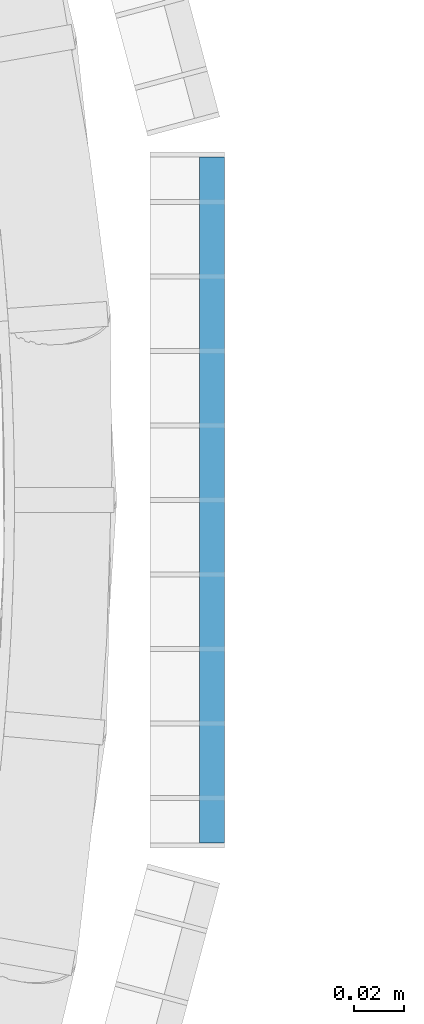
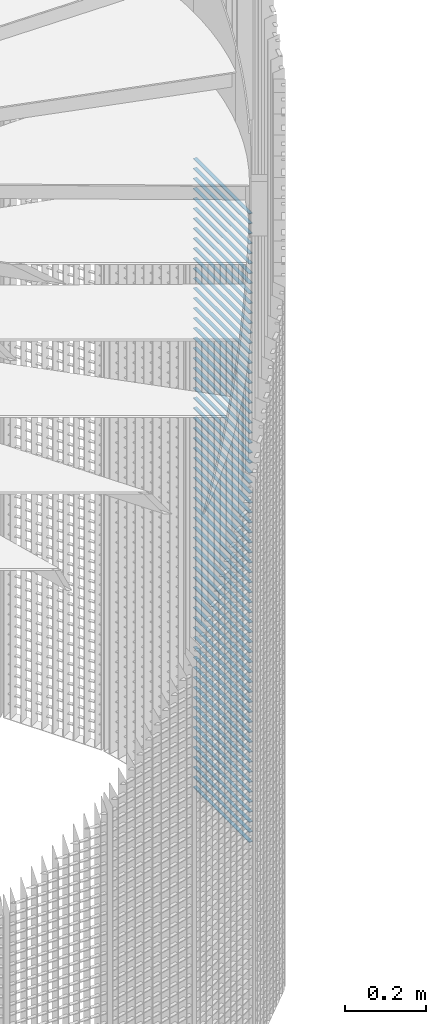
# One storey, part 313 of 1183: 64 beams, 1 element without a shape of its own.
"""IFC2X3 building model written with IfcOpenShell, lengths in millimetres."""

from ifc_helpers import new_model, si_unit, frame, origin_with_axes, origin_2d_with_axis, place, context, subcontext, project, spatial, rectangle, extrude, material, type_object, element, aggregate, save


model = new_model("IFC2X3")

# Units and contexts
model_context = context("Model", 3, precision=1e-05, world=origin_with_axes())
body_context = subcontext(model_context, "Body", "Model", "MODEL_VIEW")
ifc_project = project(units=[si_unit("LENGTHUNIT", "METRE", prefix="MILLI"), si_unit("AREAUNIT", "SQUARE_METRE"), si_unit("VOLUMEUNIT", "CUBIC_METRE"), si_unit("MASSUNIT", "GRAM", prefix="KILO"), si_unit("TIMEUNIT", "SECOND"), si_unit("PLANEANGLEUNIT", "RADIAN"), si_unit("SOLIDANGLEUNIT", "STERADIAN"), si_unit("THERMODYNAMICTEMPERATUREUNIT", "DEGREE_CELSIUS"), si_unit("LUMINOUSINTENSITYUNIT", "LUMEN")], contexts=[model_context])

# Site, building, storey
site_placement = place(None, origin_with_axes())
site = spatial("IfcSite", under=ifc_project, at=site_placement, Name="Undefined", CompositionType="ELEMENT")
building_placement = place(site_placement, origin_with_axes())
building = spatial("IfcBuilding", under=site, at=building_placement, Name="Undefined", CompositionType="ELEMENT")
storey_placement = place(building_placement, origin_with_axes())
storey = spatial("IfcBuildingStorey", under=building, at=storey_placement, Name="Undefined", CompositionType="ELEMENT", Elevation=0.0)

# Assembly, beams
assembly_placement = place(storey_placement, origin_with_axes())
assembly = element("IfcElementAssembly", 1, at=assembly_placement, inside=storey, Name="BORDURE", AssemblyPlace="NOTDEFINED", PredefinedType="NOTDEFINED")
ifc_material = material(Name="STEEL/S235JR")
beam_type = type_object("IfcBeamType", Name="PL2*10", PredefinedType="NOTDEFINED")
beam_1_placement = place(assembly_placement, frame((1113.47999999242, -137.996003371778, 1920.0), z_axis=(1.0, 0.0, 0.0), x_axis=(0.0, 1.0, 0.0)))
beam_1 = element("IfcBeam", 2, at=beam_1_placement, type_object=beam_type, material=ifc_material, Name="ENTRETOISE", context=body_context, shape_type="SweptSolid", body=[
    extrude(rectangle(XDim=2.0, YDim=10.0, at=origin_2d_with_axis()), frame((275.999999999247, 9.09494701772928e-13, 1.53210777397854e-14), z_axis=(-1.0, 0.0, 0.0), x_axis=(0.0, -1.0, 0.0)), (0.0, 0.0, 1.0), 276.0),
])
beam_2_placement = place(assembly_placement, frame((1113.47999999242, -137.996003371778, 1890.0), z_axis=(1.0, 0.0, 0.0), x_axis=(0.0, 1.0, 0.0)))
beam_2 = element("IfcBeam", 3, at=beam_2_placement, type_object=beam_type, material=ifc_material, Name="ENTRETOISE", context=body_context, shape_type="SweptSolid", body=[
    extrude(rectangle(XDim=2.0, YDim=10.0, at=origin_2d_with_axis()), frame((275.999999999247, 9.09494701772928e-13, 1.53210777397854e-14), z_axis=(-1.0, 0.0, 0.0), x_axis=(0.0, -1.0, 0.0)), (0.0, 0.0, 1.0), 276.0),
])
beam_3_placement = place(assembly_placement, frame((1113.47999999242, -137.996003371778, 1860.0), z_axis=(1.0, 0.0, 0.0), x_axis=(0.0, 1.0, 0.0)))
beam_3 = element("IfcBeam", 4, at=beam_3_placement, type_object=beam_type, material=ifc_material, Name="ENTRETOISE", context=body_context, shape_type="SweptSolid", body=[
    extrude(rectangle(XDim=2.0, YDim=10.0, at=origin_2d_with_axis()), frame((275.999999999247, 9.09494701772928e-13, 1.53210777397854e-14), z_axis=(-1.0, 0.0, 0.0), x_axis=(0.0, -1.0, 0.0)), (0.0, 0.0, 1.0), 276.0),
])
beam_4_placement = place(assembly_placement, frame((1113.47999999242, -137.996003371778, 1830.0), z_axis=(1.0, 0.0, 0.0), x_axis=(0.0, 1.0, 0.0)))
beam_4 = element("IfcBeam", 5, at=beam_4_placement, type_object=beam_type, material=ifc_material, Name="ENTRETOISE", context=body_context, shape_type="SweptSolid", body=[
    extrude(rectangle(XDim=2.0, YDim=10.0, at=origin_2d_with_axis()), frame((275.999999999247, 9.09494701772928e-13, 1.53210777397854e-14), z_axis=(-1.0, 0.0, 0.0), x_axis=(0.0, -1.0, 0.0)), (0.0, 0.0, 1.0), 276.0),
])
beam_5_placement = place(assembly_placement, frame((1113.47999999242, -137.996003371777, 1800.0), z_axis=(1.0, 0.0, 0.0), x_axis=(0.0, 1.0, 0.0)))
beam_5 = element("IfcBeam", 6, at=beam_5_placement, type_object=beam_type, material=ifc_material, Name="ENTRETOISE", context=body_context, shape_type="SweptSolid", body=[
    extrude(rectangle(XDim=2.0, YDim=10.0, at=origin_2d_with_axis()), frame((275.999999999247, 9.09494701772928e-13, 1.53210777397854e-14), z_axis=(-1.0, 0.0, 0.0), x_axis=(0.0, -1.0, 0.0)), (0.0, 0.0, 1.0), 276.0),
])
beam_6_placement = place(assembly_placement, frame((1113.47999999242, -137.996003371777, 1770.0), z_axis=(1.0, 0.0, 0.0), x_axis=(0.0, 1.0, 0.0)))
beam_6 = element("IfcBeam", 7, at=beam_6_placement, type_object=beam_type, material=ifc_material, Name="ENTRETOISE", context=body_context, shape_type="SweptSolid", body=[
    extrude(rectangle(XDim=2.0, YDim=10.0, at=origin_2d_with_axis()), frame((275.999999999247, 9.09494701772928e-13, 1.53210777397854e-14), z_axis=(-1.0, 0.0, 0.0), x_axis=(0.0, -1.0, 0.0)), (0.0, 0.0, 1.0), 276.0),
])
beam_7_placement = place(assembly_placement, frame((1113.47999999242, -137.996003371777, 1740.0), z_axis=(1.0, 0.0, 0.0), x_axis=(0.0, 1.0, 0.0)))
beam_7 = element("IfcBeam", 8, at=beam_7_placement, type_object=beam_type, material=ifc_material, Name="ENTRETOISE", context=body_context, shape_type="SweptSolid", body=[
    extrude(rectangle(XDim=2.0, YDim=10.0, at=origin_2d_with_axis()), frame((275.999999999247, 9.09494701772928e-13, 1.53210777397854e-14), z_axis=(-1.0, 0.0, 0.0), x_axis=(0.0, -1.0, 0.0)), (0.0, 0.0, 1.0), 276.0),
])
beam_8_placement = place(assembly_placement, frame((1113.47999999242, -137.996003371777, 1710.0), z_axis=(1.0, 0.0, 0.0), x_axis=(0.0, 1.0, 0.0)))
beam_8 = element("IfcBeam", 9, at=beam_8_placement, type_object=beam_type, material=ifc_material, Name="ENTRETOISE", context=body_context, shape_type="SweptSolid", body=[
    extrude(rectangle(XDim=2.0, YDim=10.0, at=origin_2d_with_axis()), frame((275.999999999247, 9.09494701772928e-13, 1.53210777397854e-14), z_axis=(-1.0, 0.0, 0.0), x_axis=(0.0, -1.0, 0.0)), (0.0, 0.0, 1.0), 276.0),
])
beam_9_placement = place(assembly_placement, frame((1113.47999999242, -137.996003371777, 1680.0), z_axis=(1.0, 0.0, 0.0), x_axis=(0.0, 1.0, 0.0)))
beam_9 = element("IfcBeam", 10, at=beam_9_placement, type_object=beam_type, material=ifc_material, Name="ENTRETOISE", context=body_context, shape_type="SweptSolid", body=[
    extrude(rectangle(XDim=2.0, YDim=10.0, at=origin_2d_with_axis()), frame((275.999999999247, 9.09494701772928e-13, 1.53210777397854e-14), z_axis=(-1.0, 0.0, 0.0), x_axis=(0.0, -1.0, 0.0)), (0.0, 0.0, 1.0), 276.0),
])
beam_10_placement = place(assembly_placement, frame((1113.47999999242, -137.996003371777, 1650.0), z_axis=(1.0, 0.0, 0.0), x_axis=(0.0, 1.0, 0.0)))
beam_10 = element("IfcBeam", 11, at=beam_10_placement, type_object=beam_type, material=ifc_material, Name="ENTRETOISE", context=body_context, shape_type="SweptSolid", body=[
    extrude(rectangle(XDim=2.0, YDim=10.0, at=origin_2d_with_axis()), frame((275.999999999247, 9.09494701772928e-13, 1.53210777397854e-14), z_axis=(-1.0, 0.0, 0.0), x_axis=(0.0, -1.0, 0.0)), (0.0, 0.0, 1.0), 276.0),
])
beam_11_placement = place(assembly_placement, frame((1113.47999999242, -137.996003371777, 1620.0), z_axis=(1.0, 0.0, 0.0), x_axis=(0.0, 1.0, 0.0)))
beam_11 = element("IfcBeam", 12, at=beam_11_placement, type_object=beam_type, material=ifc_material, Name="ENTRETOISE", context=body_context, shape_type="SweptSolid", body=[
    extrude(rectangle(XDim=2.0, YDim=10.0, at=origin_2d_with_axis()), frame((275.999999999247, 9.09494701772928e-13, 1.53210777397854e-14), z_axis=(-1.0, 0.0, 0.0), x_axis=(0.0, -1.0, 0.0)), (0.0, 0.0, 1.0), 276.0),
])
beam_12_placement = place(assembly_placement, frame((1113.47999999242, -137.996003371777, 1590.0), z_axis=(1.0, 0.0, 0.0), x_axis=(0.0, 1.0, 0.0)))
beam_12 = element("IfcBeam", 13, at=beam_12_placement, type_object=beam_type, material=ifc_material, Name="ENTRETOISE", context=body_context, shape_type="SweptSolid", body=[
    extrude(rectangle(XDim=2.0, YDim=10.0, at=origin_2d_with_axis()), frame((275.999999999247, 9.09494701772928e-13, 1.53210777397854e-14), z_axis=(-1.0, 0.0, 0.0), x_axis=(0.0, -1.0, 0.0)), (0.0, 0.0, 1.0), 276.0),
])
beam_13_placement = place(assembly_placement, frame((1113.47999999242, -137.996003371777, 1560.0), z_axis=(1.0, 0.0, 0.0), x_axis=(0.0, 1.0, 0.0)))
beam_13 = element("IfcBeam", 14, at=beam_13_placement, type_object=beam_type, material=ifc_material, Name="ENTRETOISE", context=body_context, shape_type="SweptSolid", body=[
    extrude(rectangle(XDim=2.0, YDim=10.0, at=origin_2d_with_axis()), frame((275.999999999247, 9.09494701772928e-13, 1.53210777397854e-14), z_axis=(-1.0, 0.0, 0.0), x_axis=(0.0, -1.0, 0.0)), (0.0, 0.0, 1.0), 276.0),
])
beam_14_placement = place(assembly_placement, frame((1113.47999999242, -137.996003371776, 1530.0), z_axis=(1.0, 0.0, 0.0), x_axis=(0.0, 1.0, 0.0)))
beam_14 = element("IfcBeam", 15, at=beam_14_placement, type_object=beam_type, material=ifc_material, Name="ENTRETOISE", context=body_context, shape_type="SweptSolid", body=[
    extrude(rectangle(XDim=2.0, YDim=10.0, at=origin_2d_with_axis()), frame((275.999999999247, 9.09494701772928e-13, 1.53210777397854e-14), z_axis=(-1.0, 0.0, 0.0), x_axis=(0.0, -1.0, 0.0)), (0.0, 0.0, 1.0), 276.0),
])
beam_15_placement = place(assembly_placement, frame((1113.47999999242, -137.996003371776, 1500.0), z_axis=(1.0, 0.0, 0.0), x_axis=(0.0, 1.0, 0.0)))
beam_15 = element("IfcBeam", 16, at=beam_15_placement, type_object=beam_type, material=ifc_material, Name="ENTRETOISE", context=body_context, shape_type="SweptSolid", body=[
    extrude(rectangle(XDim=2.0, YDim=10.0, at=origin_2d_with_axis()), frame((275.999999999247, 9.09494701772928e-13, 1.53210777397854e-14), z_axis=(-1.0, 0.0, 0.0), x_axis=(0.0, -1.0, 0.0)), (0.0, 0.0, 1.0), 276.0),
])
beam_16_placement = place(assembly_placement, frame((1113.47999999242, -137.996003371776, 1470.0), z_axis=(1.0, 0.0, 0.0), x_axis=(0.0, 1.0, 0.0)))
beam_16 = element("IfcBeam", 17, at=beam_16_placement, type_object=beam_type, material=ifc_material, Name="ENTRETOISE", context=body_context, shape_type="SweptSolid", body=[
    extrude(rectangle(XDim=2.0, YDim=10.0, at=origin_2d_with_axis()), frame((275.999999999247, 9.09494701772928e-13, 1.53210777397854e-14), z_axis=(-1.0, 0.0, 0.0), x_axis=(0.0, -1.0, 0.0)), (0.0, 0.0, 1.0), 276.0),
])
beam_17_placement = place(assembly_placement, frame((1113.47999999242, -137.996003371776, 1440.0), z_axis=(1.0, 0.0, 0.0), x_axis=(0.0, 1.0, 0.0)))
beam_17 = element("IfcBeam", 18, at=beam_17_placement, type_object=beam_type, material=ifc_material, Name="ENTRETOISE", context=body_context, shape_type="SweptSolid", body=[
    extrude(rectangle(XDim=2.0, YDim=10.0, at=origin_2d_with_axis()), frame((275.999999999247, 9.09494701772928e-13, 1.53210777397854e-14), z_axis=(-1.0, 0.0, 0.0), x_axis=(0.0, -1.0, 0.0)), (0.0, 0.0, 1.0), 276.0),
])
beam_18_placement = place(assembly_placement, frame((1113.47999999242, -137.996003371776, 1410.0), z_axis=(1.0, 0.0, 0.0), x_axis=(0.0, 1.0, 0.0)))
beam_18 = element("IfcBeam", 19, at=beam_18_placement, type_object=beam_type, material=ifc_material, Name="ENTRETOISE", context=body_context, shape_type="SweptSolid", body=[
    extrude(rectangle(XDim=2.0, YDim=10.0, at=origin_2d_with_axis()), frame((275.999999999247, 9.09494701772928e-13, 1.53210777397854e-14), z_axis=(-1.0, 0.0, 0.0), x_axis=(0.0, -1.0, 0.0)), (0.0, 0.0, 1.0), 276.0),
])
beam_19_placement = place(assembly_placement, frame((1113.47999999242, -137.996003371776, 1380.0), z_axis=(1.0, 0.0, 0.0), x_axis=(0.0, 1.0, 0.0)))
beam_19 = element("IfcBeam", 20, at=beam_19_placement, type_object=beam_type, material=ifc_material, Name="ENTRETOISE", context=body_context, shape_type="SweptSolid", body=[
    extrude(rectangle(XDim=2.0, YDim=10.0, at=origin_2d_with_axis()), frame((275.999999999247, 9.09494701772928e-13, 1.53210777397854e-14), z_axis=(-1.0, 0.0, 0.0), x_axis=(0.0, -1.0, 0.0)), (0.0, 0.0, 1.0), 276.0),
])
beam_20_placement = place(assembly_placement, frame((1113.47999999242, -137.996003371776, 1350.0), z_axis=(1.0, 0.0, 0.0), x_axis=(0.0, 1.0, 0.0)))
beam_20 = element("IfcBeam", 21, at=beam_20_placement, type_object=beam_type, material=ifc_material, Name="ENTRETOISE", context=body_context, shape_type="SweptSolid", body=[
    extrude(rectangle(XDim=2.0, YDim=10.0, at=origin_2d_with_axis()), frame((275.999999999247, 9.09494701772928e-13, 1.53210777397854e-14), z_axis=(-1.0, 0.0, 0.0), x_axis=(0.0, -1.0, 0.0)), (0.0, 0.0, 1.0), 276.0),
])
beam_21_placement = place(assembly_placement, frame((1113.47999999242, -137.996003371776, 1320.0), z_axis=(1.0, 0.0, 0.0), x_axis=(0.0, 1.0, 0.0)))
beam_21 = element("IfcBeam", 22, at=beam_21_placement, type_object=beam_type, material=ifc_material, Name="ENTRETOISE", context=body_context, shape_type="SweptSolid", body=[
    extrude(rectangle(XDim=2.0, YDim=10.0, at=origin_2d_with_axis()), frame((275.999999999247, 9.09494701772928e-13, 1.53210777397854e-14), z_axis=(-1.0, 0.0, 0.0), x_axis=(0.0, -1.0, 0.0)), (0.0, 0.0, 1.0), 276.0),
])
beam_22_placement = place(assembly_placement, frame((1113.47999999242, -137.996003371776, 1290.0), z_axis=(1.0, 0.0, 0.0), x_axis=(0.0, 1.0, 0.0)))
beam_22 = element("IfcBeam", 23, at=beam_22_placement, type_object=beam_type, material=ifc_material, Name="ENTRETOISE", context=body_context, shape_type="SweptSolid", body=[
    extrude(rectangle(XDim=2.0, YDim=10.0, at=origin_2d_with_axis()), frame((275.999999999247, 9.09494701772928e-13, 1.53210777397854e-14), z_axis=(-1.0, 0.0, 0.0), x_axis=(0.0, -1.0, 0.0)), (0.0, 0.0, 1.0), 276.0),
])
beam_23_placement = place(assembly_placement, frame((1113.47999999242, -137.996003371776, 1260.0), z_axis=(1.0, 0.0, 0.0), x_axis=(0.0, 1.0, 0.0)))
beam_23 = element("IfcBeam", 24, at=beam_23_placement, type_object=beam_type, material=ifc_material, Name="ENTRETOISE", context=body_context, shape_type="SweptSolid", body=[
    extrude(rectangle(XDim=2.0, YDim=10.0, at=origin_2d_with_axis()), frame((275.999999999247, 9.09494701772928e-13, 1.53210777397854e-14), z_axis=(-1.0, 0.0, 0.0), x_axis=(0.0, -1.0, 0.0)), (0.0, 0.0, 1.0), 276.0),
])
beam_24_placement = place(assembly_placement, frame((1113.47999999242, -137.996003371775, 1230.0), z_axis=(1.0, 0.0, 0.0), x_axis=(0.0, 1.0, 0.0)))
beam_24 = element("IfcBeam", 25, at=beam_24_placement, type_object=beam_type, material=ifc_material, Name="ENTRETOISE", context=body_context, shape_type="SweptSolid", body=[
    extrude(rectangle(XDim=2.0, YDim=10.0, at=origin_2d_with_axis()), frame((275.999999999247, 9.09494701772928e-13, 1.53210777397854e-14), z_axis=(-1.0, 0.0, 0.0), x_axis=(0.0, -1.0, 0.0)), (0.0, 0.0, 1.0), 276.0),
])
beam_25_placement = place(assembly_placement, frame((1113.47999999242, -137.996003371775, 1200.0), z_axis=(1.0, 0.0, 0.0), x_axis=(0.0, 1.0, 0.0)))
beam_25 = element("IfcBeam", 26, at=beam_25_placement, type_object=beam_type, material=ifc_material, Name="ENTRETOISE", context=body_context, shape_type="SweptSolid", body=[
    extrude(rectangle(XDim=2.0, YDim=10.0, at=origin_2d_with_axis()), frame((275.999999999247, 9.09494701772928e-13, 1.53210777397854e-14), z_axis=(-1.0, 0.0, 0.0), x_axis=(0.0, -1.0, 0.0)), (0.0, 0.0, 1.0), 276.0),
])
beam_26_placement = place(assembly_placement, frame((1113.47999999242, -137.996003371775, 1170.0), z_axis=(1.0, 0.0, 0.0), x_axis=(0.0, 1.0, 0.0)))
beam_26 = element("IfcBeam", 27, at=beam_26_placement, type_object=beam_type, material=ifc_material, Name="ENTRETOISE", context=body_context, shape_type="SweptSolid", body=[
    extrude(rectangle(XDim=2.0, YDim=10.0, at=origin_2d_with_axis()), frame((275.999999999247, 9.09494701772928e-13, 1.53210777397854e-14), z_axis=(-1.0, 0.0, 0.0), x_axis=(0.0, -1.0, 0.0)), (0.0, 0.0, 1.0), 276.0),
])
beam_27_placement = place(assembly_placement, frame((1113.47999999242, -137.996003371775, 1140.0), z_axis=(1.0, 0.0, 0.0), x_axis=(0.0, 1.0, 0.0)))
beam_27 = element("IfcBeam", 28, at=beam_27_placement, type_object=beam_type, material=ifc_material, Name="ENTRETOISE", context=body_context, shape_type="SweptSolid", body=[
    extrude(rectangle(XDim=2.0, YDim=10.0, at=origin_2d_with_axis()), frame((275.999999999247, 9.09494701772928e-13, 1.53210777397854e-14), z_axis=(-1.0, 0.0, 0.0), x_axis=(0.0, -1.0, 0.0)), (0.0, 0.0, 1.0), 276.0),
])
beam_28_placement = place(assembly_placement, frame((1113.47999999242, -137.996003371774, 719.999999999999), z_axis=(1.0, 0.0, 0.0), x_axis=(0.0, 1.0, 0.0)))
beam_28 = element("IfcBeam", 29, at=beam_28_placement, type_object=beam_type, material=ifc_material, Name="ENTRETOISE", context=body_context, shape_type="SweptSolid", body=[
    extrude(rectangle(XDim=2.0, YDim=10.0, at=origin_2d_with_axis()), frame((275.999999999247, 9.09494701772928e-13, 1.53210777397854e-14), z_axis=(-1.0, 0.0, 0.0), x_axis=(0.0, -1.0, 0.0)), (0.0, 0.0, 1.0), 276.0),
])
beam_29_placement = place(assembly_placement, frame((1113.47999999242, -137.996003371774, 689.999999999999), z_axis=(1.0, 0.0, 0.0), x_axis=(0.0, 1.0, 0.0)))
beam_29 = element("IfcBeam", 30, at=beam_29_placement, type_object=beam_type, material=ifc_material, Name="ENTRETOISE", context=body_context, shape_type="SweptSolid", body=[
    extrude(rectangle(XDim=2.0, YDim=10.0, at=origin_2d_with_axis()), frame((275.999999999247, 9.09494701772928e-13, 1.53210777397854e-14), z_axis=(-1.0, 0.0, 0.0), x_axis=(0.0, -1.0, 0.0)), (0.0, 0.0, 1.0), 276.0),
])
beam_30_placement = place(assembly_placement, frame((1113.47999999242, -137.996003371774, 749.999999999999), z_axis=(1.0, 0.0, 0.0), x_axis=(0.0, 1.0, 0.0)))
beam_30 = element("IfcBeam", 31, at=beam_30_placement, type_object=beam_type, material=ifc_material, Name="ENTRETOISE", context=body_context, shape_type="SweptSolid", body=[
    extrude(rectangle(XDim=2.0, YDim=10.0, at=origin_2d_with_axis()), frame((275.999999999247, 9.09494701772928e-13, 1.53210777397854e-14), z_axis=(-1.0, 0.0, 0.0), x_axis=(0.0, -1.0, 0.0)), (0.0, 0.0, 1.0), 276.0),
])
beam_31_placement = place(assembly_placement, frame((1113.47999999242, -137.996003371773, 659.999999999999), z_axis=(1.0, 0.0, 0.0), x_axis=(0.0, 1.0, 0.0)))
beam_31 = element("IfcBeam", 32, at=beam_31_placement, type_object=beam_type, material=ifc_material, Name="ENTRETOISE", context=body_context, shape_type="SweptSolid", body=[
    extrude(rectangle(XDim=2.0, YDim=10.0, at=origin_2d_with_axis()), frame((275.999999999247, 9.09494701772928e-13, 1.53210777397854e-14), z_axis=(-1.0, 0.0, 0.0), x_axis=(0.0, -1.0, 0.0)), (0.0, 0.0, 1.0), 276.0),
])
beam_32_placement = place(assembly_placement, frame((1113.47999999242, -137.996003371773, 629.999999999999), z_axis=(1.0, 0.0, 0.0), x_axis=(0.0, 1.0, 0.0)))
beam_32 = element("IfcBeam", 33, at=beam_32_placement, type_object=beam_type, material=ifc_material, Name="ENTRETOISE", context=body_context, shape_type="SweptSolid", body=[
    extrude(rectangle(XDim=2.0, YDim=10.0, at=origin_2d_with_axis()), frame((275.999999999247, 9.09494701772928e-13, 1.53210777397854e-14), z_axis=(-1.0, 0.0, 0.0), x_axis=(0.0, -1.0, 0.0)), (0.0, 0.0, 1.0), 276.0),
])
beam_33_placement = place(assembly_placement, frame((1113.47999999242, -137.996003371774, 779.999999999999), z_axis=(1.0, 0.0, 0.0), x_axis=(0.0, 1.0, 0.0)))
beam_33 = element("IfcBeam", 34, at=beam_33_placement, type_object=beam_type, material=ifc_material, Name="ENTRETOISE", context=body_context, shape_type="SweptSolid", body=[
    extrude(rectangle(XDim=2.0, YDim=10.0, at=origin_2d_with_axis()), frame((275.999999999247, 9.09494701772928e-13, 1.53210777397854e-14), z_axis=(-1.0, 0.0, 0.0), x_axis=(0.0, -1.0, 0.0)), (0.0, 0.0, 1.0), 276.0),
])
beam_34_placement = place(assembly_placement, frame((1113.47999999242, -137.996003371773, 599.999999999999), z_axis=(1.0, 0.0, 0.0), x_axis=(0.0, 1.0, 0.0)))
beam_34 = element("IfcBeam", 35, at=beam_34_placement, type_object=beam_type, material=ifc_material, Name="ENTRETOISE", context=body_context, shape_type="SweptSolid", body=[
    extrude(rectangle(XDim=2.0, YDim=10.0, at=origin_2d_with_axis()), frame((275.999999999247, 9.09494701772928e-13, 1.53210777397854e-14), z_axis=(-1.0, 0.0, 0.0), x_axis=(0.0, -1.0, 0.0)), (0.0, 0.0, 1.0), 276.0),
])
beam_35_placement = place(assembly_placement, frame((1113.47999999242, -137.996003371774, 809.999999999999), z_axis=(1.0, 0.0, 0.0), x_axis=(0.0, 1.0, 0.0)))
beam_35 = element("IfcBeam", 36, at=beam_35_placement, type_object=beam_type, material=ifc_material, Name="ENTRETOISE", context=body_context, shape_type="SweptSolid", body=[
    extrude(rectangle(XDim=2.0, YDim=10.0, at=origin_2d_with_axis()), frame((275.999999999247, 9.09494701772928e-13, 1.53210777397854e-14), z_axis=(-1.0, 0.0, 0.0), x_axis=(0.0, -1.0, 0.0)), (0.0, 0.0, 1.0), 276.0),
])
beam_36_placement = place(assembly_placement, frame((1113.47999999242, -137.996003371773, 569.999999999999), z_axis=(1.0, 0.0, 0.0), x_axis=(0.0, 1.0, 0.0)))
beam_36 = element("IfcBeam", 37, at=beam_36_placement, type_object=beam_type, material=ifc_material, Name="ENTRETOISE", context=body_context, shape_type="SweptSolid", body=[
    extrude(rectangle(XDim=2.0, YDim=10.0, at=origin_2d_with_axis()), frame((275.999999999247, 9.09494701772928e-13, 1.53210777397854e-14), z_axis=(-1.0, 0.0, 0.0), x_axis=(0.0, -1.0, 0.0)), (0.0, 0.0, 1.0), 276.0),
])
beam_37_placement = place(assembly_placement, frame((1113.47999999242, -137.996003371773, 539.999999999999), z_axis=(1.0, 0.0, 0.0), x_axis=(0.0, 1.0, 0.0)))
beam_37 = element("IfcBeam", 38, at=beam_37_placement, type_object=beam_type, material=ifc_material, Name="ENTRETOISE", context=body_context, shape_type="SweptSolid", body=[
    extrude(rectangle(XDim=2.0, YDim=10.0, at=origin_2d_with_axis()), frame((275.999999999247, 9.09494701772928e-13, 1.53210777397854e-14), z_axis=(-1.0, 0.0, 0.0), x_axis=(0.0, -1.0, 0.0)), (0.0, 0.0, 1.0), 276.0),
])
beam_38_placement = place(assembly_placement, frame((1113.47999999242, -137.996003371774, 839.999999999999), z_axis=(1.0, 0.0, 0.0), x_axis=(0.0, 1.0, 0.0)))
beam_38 = element("IfcBeam", 39, at=beam_38_placement, type_object=beam_type, material=ifc_material, Name="ENTRETOISE", context=body_context, shape_type="SweptSolid", body=[
    extrude(rectangle(XDim=2.0, YDim=10.0, at=origin_2d_with_axis()), frame((275.999999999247, 9.09494701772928e-13, 1.53210777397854e-14), z_axis=(-1.0, 0.0, 0.0), x_axis=(0.0, -1.0, 0.0)), (0.0, 0.0, 1.0), 276.0),
])
beam_39_placement = place(assembly_placement, frame((1113.47999999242, -137.996003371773, 509.999999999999), z_axis=(1.0, 0.0, 0.0), x_axis=(0.0, 1.0, 0.0)))
beam_39 = element("IfcBeam", 40, at=beam_39_placement, type_object=beam_type, material=ifc_material, Name="ENTRETOISE", context=body_context, shape_type="SweptSolid", body=[
    extrude(rectangle(XDim=2.0, YDim=10.0, at=origin_2d_with_axis()), frame((275.999999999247, 9.09494701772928e-13, 1.53210777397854e-14), z_axis=(-1.0, 0.0, 0.0), x_axis=(0.0, -1.0, 0.0)), (0.0, 0.0, 1.0), 276.0),
])
beam_40_placement = place(assembly_placement, frame((1113.47999999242, -137.996003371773, 479.999999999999), z_axis=(1.0, 0.0, 0.0), x_axis=(0.0, 1.0, 0.0)))
beam_40 = element("IfcBeam", 41, at=beam_40_placement, type_object=beam_type, material=ifc_material, Name="ENTRETOISE", context=body_context, shape_type="SweptSolid", body=[
    extrude(rectangle(XDim=2.0, YDim=10.0, at=origin_2d_with_axis()), frame((275.999999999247, 9.09494701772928e-13, 1.53210777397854e-14), z_axis=(-1.0, 0.0, 0.0), x_axis=(0.0, -1.0, 0.0)), (0.0, 0.0, 1.0), 276.0),
])
beam_41_placement = place(assembly_placement, frame((1113.47999999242, -137.996003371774, 869.999999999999), z_axis=(1.0, 0.0, 0.0), x_axis=(0.0, 1.0, 0.0)))
beam_41 = element("IfcBeam", 42, at=beam_41_placement, type_object=beam_type, material=ifc_material, Name="ENTRETOISE", context=body_context, shape_type="SweptSolid", body=[
    extrude(rectangle(XDim=2.0, YDim=10.0, at=origin_2d_with_axis()), frame((275.999999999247, 9.09494701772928e-13, 1.53210777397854e-14), z_axis=(-1.0, 0.0, 0.0), x_axis=(0.0, -1.0, 0.0)), (0.0, 0.0, 1.0), 276.0),
])
beam_42_placement = place(assembly_placement, frame((1113.47999999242, -137.996003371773, 449.999999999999), z_axis=(1.0, 0.0, 0.0), x_axis=(0.0, 1.0, 0.0)))
beam_42 = element("IfcBeam", 43, at=beam_42_placement, type_object=beam_type, material=ifc_material, Name="ENTRETOISE", context=body_context, shape_type="SweptSolid", body=[
    extrude(rectangle(XDim=2.0, YDim=10.0, at=origin_2d_with_axis()), frame((275.999999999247, 9.09494701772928e-13, 1.53210777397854e-14), z_axis=(-1.0, 0.0, 0.0), x_axis=(0.0, -1.0, 0.0)), (0.0, 0.0, 1.0), 276.0),
])
beam_43_placement = place(assembly_placement, frame((1113.47999999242, -137.996003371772, 419.999999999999), z_axis=(1.0, 0.0, 0.0), x_axis=(0.0, 1.0, 0.0)))
beam_43 = element("IfcBeam", 44, at=beam_43_placement, type_object=beam_type, material=ifc_material, Name="ENTRETOISE", context=body_context, shape_type="SweptSolid", body=[
    extrude(rectangle(XDim=2.0, YDim=10.0, at=origin_2d_with_axis()), frame((275.999999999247, 9.09494701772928e-13, 1.53210777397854e-14), z_axis=(-1.0, 0.0, 0.0), x_axis=(0.0, -1.0, 0.0)), (0.0, 0.0, 1.0), 276.0),
])
beam_44_placement = place(assembly_placement, frame((1113.47999999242, -137.996003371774, 899.999999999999), z_axis=(1.0, 0.0, 0.0), x_axis=(0.0, 1.0, 0.0)))
beam_44 = element("IfcBeam", 45, at=beam_44_placement, type_object=beam_type, material=ifc_material, Name="ENTRETOISE", context=body_context, shape_type="SweptSolid", body=[
    extrude(rectangle(XDim=2.0, YDim=10.0, at=origin_2d_with_axis()), frame((275.999999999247, 9.09494701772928e-13, 1.53210777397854e-14), z_axis=(-1.0, 0.0, 0.0), x_axis=(0.0, -1.0, 0.0)), (0.0, 0.0, 1.0), 276.0),
])
beam_45_placement = place(assembly_placement, frame((1113.47999999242, -137.996003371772, 389.999999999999), z_axis=(1.0, 0.0, 0.0), x_axis=(0.0, 1.0, 0.0)))
beam_45 = element("IfcBeam", 46, at=beam_45_placement, type_object=beam_type, material=ifc_material, Name="ENTRETOISE", context=body_context, shape_type="SweptSolid", body=[
    extrude(rectangle(XDim=2.0, YDim=10.0, at=origin_2d_with_axis()), frame((275.999999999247, 9.09494701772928e-13, 1.53210777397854e-14), z_axis=(-1.0, 0.0, 0.0), x_axis=(0.0, -1.0, 0.0)), (0.0, 0.0, 1.0), 276.0),
])
beam_46_placement = place(assembly_placement, frame((1113.47999999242, -137.996003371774, 929.999999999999), z_axis=(1.0, 0.0, 0.0), x_axis=(0.0, 1.0, 0.0)))
beam_46 = element("IfcBeam", 47, at=beam_46_placement, type_object=beam_type, material=ifc_material, Name="ENTRETOISE", context=body_context, shape_type="SweptSolid", body=[
    extrude(rectangle(XDim=2.0, YDim=10.0, at=origin_2d_with_axis()), frame((275.999999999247, 9.09494701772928e-13, 1.53210777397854e-14), z_axis=(-1.0, 0.0, 0.0), x_axis=(0.0, -1.0, 0.0)), (0.0, 0.0, 1.0), 276.0),
])
beam_47_placement = place(assembly_placement, frame((1113.47999999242, -137.996003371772, 359.999999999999), z_axis=(1.0, 0.0, 0.0), x_axis=(0.0, 1.0, 0.0)))
beam_47 = element("IfcBeam", 48, at=beam_47_placement, type_object=beam_type, material=ifc_material, Name="ENTRETOISE", context=body_context, shape_type="SweptSolid", body=[
    extrude(rectangle(XDim=2.0, YDim=10.0, at=origin_2d_with_axis()), frame((275.999999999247, 9.09494701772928e-13, 1.53210777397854e-14), z_axis=(-1.0, 0.0, 0.0), x_axis=(0.0, -1.0, 0.0)), (0.0, 0.0, 1.0), 276.0),
])
beam_48_placement = place(assembly_placement, frame((1113.47999999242, -137.996003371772, 329.999999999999), z_axis=(1.0, 0.0, 0.0), x_axis=(0.0, 1.0, 0.0)))
beam_48 = element("IfcBeam", 49, at=beam_48_placement, type_object=beam_type, material=ifc_material, Name="ENTRETOISE", context=body_context, shape_type="SweptSolid", body=[
    extrude(rectangle(XDim=2.0, YDim=10.0, at=origin_2d_with_axis()), frame((275.999999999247, 9.09494701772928e-13, 1.53210777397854e-14), z_axis=(-1.0, 0.0, 0.0), x_axis=(0.0, -1.0, 0.0)), (0.0, 0.0, 1.0), 276.0),
])
beam_49_placement = place(assembly_placement, frame((1113.47999999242, -137.996003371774, 959.999999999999), z_axis=(1.0, 0.0, 0.0), x_axis=(0.0, 1.0, 0.0)))
beam_49 = element("IfcBeam", 50, at=beam_49_placement, type_object=beam_type, material=ifc_material, Name="ENTRETOISE", context=body_context, shape_type="SweptSolid", body=[
    extrude(rectangle(XDim=2.0, YDim=10.0, at=origin_2d_with_axis()), frame((275.999999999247, 9.09494701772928e-13, 1.53210777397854e-14), z_axis=(-1.0, 0.0, 0.0), x_axis=(0.0, -1.0, 0.0)), (0.0, 0.0, 1.0), 276.0),
])
beam_50_placement = place(assembly_placement, frame((1113.47999999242, -137.996003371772, 299.999999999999), z_axis=(1.0, 0.0, 0.0), x_axis=(0.0, 1.0, 0.0)))
beam_50 = element("IfcBeam", 51, at=beam_50_placement, type_object=beam_type, material=ifc_material, Name="ENTRETOISE", context=body_context, shape_type="SweptSolid", body=[
    extrude(rectangle(XDim=2.0, YDim=10.0, at=origin_2d_with_axis()), frame((275.999999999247, 9.09494701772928e-13, 1.53210777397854e-14), z_axis=(-1.0, 0.0, 0.0), x_axis=(0.0, -1.0, 0.0)), (0.0, 0.0, 1.0), 276.0),
])
beam_51_placement = place(assembly_placement, frame((1113.47999999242, -137.996003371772, 269.999999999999), z_axis=(1.0, 0.0, 0.0), x_axis=(0.0, 1.0, 0.0)))
beam_51 = element("IfcBeam", 52, at=beam_51_placement, type_object=beam_type, material=ifc_material, Name="ENTRETOISE", context=body_context, shape_type="SweptSolid", body=[
    extrude(rectangle(XDim=2.0, YDim=10.0, at=origin_2d_with_axis()), frame((275.999999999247, 9.09494701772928e-13, 1.53210777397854e-14), z_axis=(-1.0, 0.0, 0.0), x_axis=(0.0, -1.0, 0.0)), (0.0, 0.0, 1.0), 276.0),
])
beam_52_placement = place(assembly_placement, frame((1113.47999999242, -137.996003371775, 989.999999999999), z_axis=(1.0, 0.0, 0.0), x_axis=(0.0, 1.0, 0.0)))
beam_52 = element("IfcBeam", 53, at=beam_52_placement, type_object=beam_type, material=ifc_material, Name="ENTRETOISE", context=body_context, shape_type="SweptSolid", body=[
    extrude(rectangle(XDim=2.0, YDim=10.0, at=origin_2d_with_axis()), frame((275.999999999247, 9.09494701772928e-13, 1.53210777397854e-14), z_axis=(-1.0, 0.0, 0.0), x_axis=(0.0, -1.0, 0.0)), (0.0, 0.0, 1.0), 276.0),
])
beam_53_placement = place(assembly_placement, frame((1113.47999999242, -137.996003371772, 239.999999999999), z_axis=(1.0, 0.0, 0.0), x_axis=(0.0, 1.0, 0.0)))
beam_53 = element("IfcBeam", 54, at=beam_53_placement, type_object=beam_type, material=ifc_material, Name="ENTRETOISE", context=body_context, shape_type="SweptSolid", body=[
    extrude(rectangle(XDim=2.0, YDim=10.0, at=origin_2d_with_axis()), frame((275.999999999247, 9.09494701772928e-13, 1.53210777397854e-14), z_axis=(-1.0, 0.0, 0.0), x_axis=(0.0, -1.0, 0.0)), (0.0, 0.0, 1.0), 276.0),
])
beam_54_placement = place(assembly_placement, frame((1113.47999999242, -137.996003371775, 1020.0), z_axis=(1.0, 0.0, 0.0), x_axis=(0.0, 1.0, 0.0)))
beam_54 = element("IfcBeam", 55, at=beam_54_placement, type_object=beam_type, material=ifc_material, Name="ENTRETOISE", context=body_context, shape_type="SweptSolid", body=[
    extrude(rectangle(XDim=2.0, YDim=10.0, at=origin_2d_with_axis()), frame((275.999999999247, 9.09494701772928e-13, 1.53210777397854e-14), z_axis=(-1.0, 0.0, 0.0), x_axis=(0.0, -1.0, 0.0)), (0.0, 0.0, 1.0), 276.0),
])
beam_55_placement = place(assembly_placement, frame((1113.47999999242, -137.996003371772, 209.999999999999), z_axis=(1.0, 0.0, 0.0), x_axis=(0.0, 1.0, 0.0)))
beam_55 = element("IfcBeam", 56, at=beam_55_placement, type_object=beam_type, material=ifc_material, Name="ENTRETOISE", context=body_context, shape_type="SweptSolid", body=[
    extrude(rectangle(XDim=2.0, YDim=10.0, at=origin_2d_with_axis()), frame((275.999999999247, 9.09494701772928e-13, 1.53210777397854e-14), z_axis=(-1.0, 0.0, 0.0), x_axis=(0.0, -1.0, 0.0)), (0.0, 0.0, 1.0), 276.0),
])
beam_56_placement = place(assembly_placement, frame((1113.47999999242, -137.996003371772, 179.999999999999), z_axis=(1.0, 0.0, 0.0), x_axis=(0.0, 1.0, 0.0)))
beam_56 = element("IfcBeam", 57, at=beam_56_placement, type_object=beam_type, material=ifc_material, Name="ENTRETOISE", context=body_context, shape_type="SweptSolid", body=[
    extrude(rectangle(XDim=2.0, YDim=10.0, at=origin_2d_with_axis()), frame((275.999999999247, 9.09494701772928e-13, 1.53210777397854e-14), z_axis=(-1.0, 0.0, 0.0), x_axis=(0.0, -1.0, 0.0)), (0.0, 0.0, 1.0), 276.0),
])
beam_57_placement = place(assembly_placement, frame((1113.47999999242, -137.996003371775, 1050.0), z_axis=(1.0, 0.0, 0.0), x_axis=(0.0, 1.0, 0.0)))
beam_57 = element("IfcBeam", 58, at=beam_57_placement, type_object=beam_type, material=ifc_material, Name="ENTRETOISE", context=body_context, shape_type="SweptSolid", body=[
    extrude(rectangle(XDim=2.0, YDim=10.0, at=origin_2d_with_axis()), frame((275.999999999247, 9.09494701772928e-13, 1.53210777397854e-14), z_axis=(-1.0, 0.0, 0.0), x_axis=(0.0, -1.0, 0.0)), (0.0, 0.0, 1.0), 276.0),
])
beam_58_placement = place(assembly_placement, frame((1113.47999999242, -137.996003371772, 149.999999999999), z_axis=(1.0, 0.0, 0.0), x_axis=(0.0, 1.0, 0.0)))
beam_58 = element("IfcBeam", 59, at=beam_58_placement, type_object=beam_type, material=ifc_material, Name="ENTRETOISE", context=body_context, shape_type="SweptSolid", body=[
    extrude(rectangle(XDim=2.0, YDim=10.0, at=origin_2d_with_axis()), frame((275.999999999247, 9.09494701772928e-13, 1.53210777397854e-14), z_axis=(-1.0, 0.0, 0.0), x_axis=(0.0, -1.0, 0.0)), (0.0, 0.0, 1.0), 276.0),
])
beam_59_placement = place(assembly_placement, frame((1113.47999999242, -137.996003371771, 119.999999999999), z_axis=(1.0, 0.0, 0.0), x_axis=(0.0, 1.0, 0.0)))
beam_59 = element("IfcBeam", 60, at=beam_59_placement, type_object=beam_type, material=ifc_material, Name="ENTRETOISE", context=body_context, shape_type="SweptSolid", body=[
    extrude(rectangle(XDim=2.0, YDim=10.0, at=origin_2d_with_axis()), frame((275.999999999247, 9.09494701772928e-13, 1.53210777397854e-14), z_axis=(-1.0, 0.0, 0.0), x_axis=(0.0, -1.0, 0.0)), (0.0, 0.0, 1.0), 276.0),
])
beam_60_placement = place(assembly_placement, frame((1113.47999999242, -137.996003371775, 1080.0), z_axis=(1.0, 0.0, 0.0), x_axis=(0.0, 1.0, 0.0)))
beam_60 = element("IfcBeam", 61, at=beam_60_placement, type_object=beam_type, material=ifc_material, Name="ENTRETOISE", context=body_context, shape_type="SweptSolid", body=[
    extrude(rectangle(XDim=2.0, YDim=10.0, at=origin_2d_with_axis()), frame((275.999999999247, 9.09494701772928e-13, 1.53210777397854e-14), z_axis=(-1.0, 0.0, 0.0), x_axis=(0.0, -1.0, 0.0)), (0.0, 0.0, 1.0), 276.0),
])
beam_61_placement = place(assembly_placement, frame((1113.47999999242, -137.996003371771, 89.9999999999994), z_axis=(1.0, 0.0, 0.0), x_axis=(0.0, 1.0, 0.0)))
beam_61 = element("IfcBeam", 62, at=beam_61_placement, type_object=beam_type, material=ifc_material, Name="ENTRETOISE", context=body_context, shape_type="SweptSolid", body=[
    extrude(rectangle(XDim=2.0, YDim=10.0, at=origin_2d_with_axis()), frame((275.999999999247, 9.09494701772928e-13, 1.53210777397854e-14), z_axis=(-1.0, 0.0, 0.0), x_axis=(0.0, -1.0, 0.0)), (0.0, 0.0, 1.0), 276.0),
])
beam_62_placement = place(assembly_placement, frame((1113.47999999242, -137.996003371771, 59.9999999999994), z_axis=(1.0, 0.0, 0.0), x_axis=(0.0, 1.0, 0.0)))
beam_62 = element("IfcBeam", 63, at=beam_62_placement, type_object=beam_type, material=ifc_material, Name="ENTRETOISE", context=body_context, shape_type="SweptSolid", body=[
    extrude(rectangle(XDim=2.0, YDim=10.0, at=origin_2d_with_axis()), frame((275.999999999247, 9.09494701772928e-13, 1.53210777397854e-14), z_axis=(-1.0, 0.0, 0.0), x_axis=(0.0, -1.0, 0.0)), (0.0, 0.0, 1.0), 276.0),
])
beam_63_placement = place(assembly_placement, frame((1113.47999999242, -137.996003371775, 1110.0), z_axis=(1.0, 0.0, 0.0), x_axis=(0.0, 1.0, 0.0)))
beam_63 = element("IfcBeam", 64, at=beam_63_placement, type_object=beam_type, material=ifc_material, Name="ENTRETOISE", context=body_context, shape_type="SweptSolid", body=[
    extrude(rectangle(XDim=2.0, YDim=10.0, at=origin_2d_with_axis()), frame((275.999999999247, 9.09494701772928e-13, 1.53210777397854e-14), z_axis=(-1.0, 0.0, 0.0), x_axis=(0.0, -1.0, 0.0)), (0.0, 0.0, 1.0), 276.0),
])
beam_64_placement = place(assembly_placement, frame((1113.47999999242, -137.99600337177, 29.9999999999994), z_axis=(1.0, 0.0, 0.0), x_axis=(0.0, 1.0, 0.0)))
beam_64 = element("IfcBeam", 65, at=beam_64_placement, type_object=beam_type, material=ifc_material, Name="ENTRETOISE", context=body_context, shape_type="SweptSolid", body=[
    extrude(rectangle(XDim=2.0, YDim=10.0, at=origin_2d_with_axis()), frame((275.999999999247, 9.09494701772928e-13, 1.53210777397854e-14), z_axis=(-1.0, 0.0, 0.0), x_axis=(0.0, -1.0, 0.0)), (0.0, 0.0, 1.0), 276.0),
])
aggregate(assembly, [beam_1, beam_2, beam_3, beam_4, beam_5, beam_6, beam_7, beam_8, beam_9, beam_10, beam_11, beam_12, beam_13, beam_14, beam_15, beam_16, beam_17, beam_18, beam_19, beam_20, beam_21, beam_22, beam_23, beam_24, beam_25, beam_26, beam_27, beam_28, beam_29, beam_30, beam_31, beam_32, beam_33, beam_34, beam_35, beam_36, beam_37, beam_38, beam_39, beam_40, beam_41, beam_42, beam_43, beam_44, beam_45, beam_46, beam_47, beam_48, beam_49, beam_50, beam_51, beam_52, beam_53, beam_54, beam_55, beam_56, beam_57, beam_58, beam_59, beam_60, beam_61, beam_62, beam_63, beam_64])

save(model, "model.ifc")
